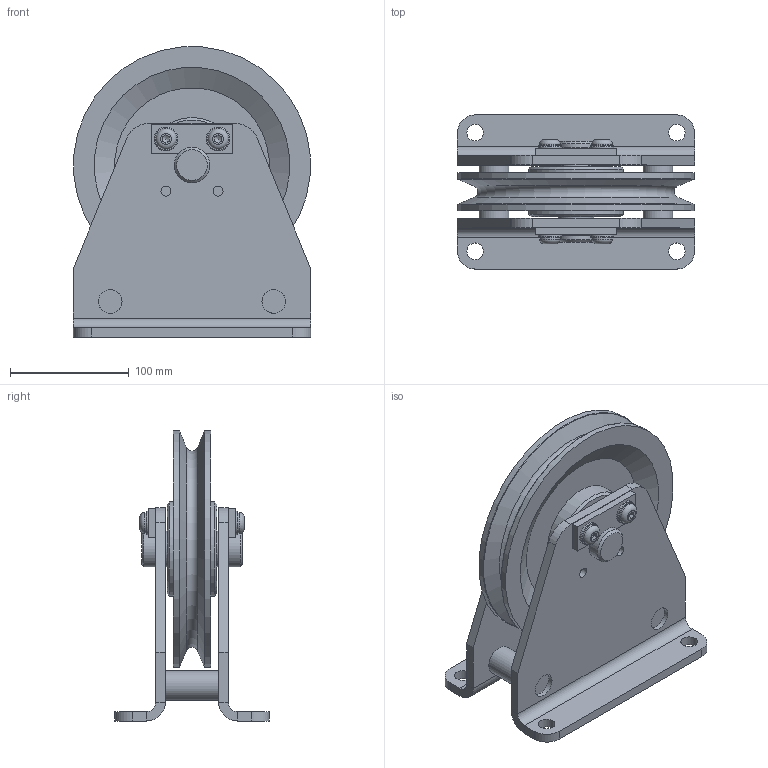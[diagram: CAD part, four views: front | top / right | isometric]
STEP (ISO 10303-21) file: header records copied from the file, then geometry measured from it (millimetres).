
FILE_DESCRIPTION(/* description */ ('Seilrollenbock ø200 Stahl Gleitlager komplett'),/* implementation_level */ '2;1');
FILE_NAME(/* name */ 'Z:\Workspace\03 Seilrollen\1.405 Seilrollenbock Stahl Gleitlager\1.405.06 Seilrollenbock ø200 Stahl Gleitlager\1.405.06 Seilrollenbock ø200 Stahl Gleitlager komplett.stp',/* time_stamp */ '2021-10-05T14:51:17+02:00',/* author */ ('cad-user'),/* organization */ (''),/* preprocessor_version */ 'ST-DEVELOPER v18',/* originating_system */ 'Autodesk Inventor 2020',/* authorisation */ '');
FILE_SCHEMA (('AUTOMOTIVE_DESIGN { 1 0 10303 214 3 1 1 }'));
Length unit declared in the file: millimetre
Products named in the file (11): 1.405.06 Seilrollenbock ø200 Stahl Gleitlager kompl
ett; 1.405.06.01 Seilrollenbock Schweißteil; 1.405.06.01 Blech; 1.405.06.01 Distanzachse; 1.401.06 Seilrolle ø200 Buchse komplett; 1.401.06 Seilrolle ø200 Buchse B=42; 3020DU; 1.405.06.03 Lasche; 1.405.06.02 Achse; DIN 125-1 - B 10,5; ISO 7380 - M10 x 16
Assembly tree (20 placements, depth 3):
  1.405.06 Seilrollenbock ø200 Stahl Gleitlager kompl
ett
    1.405.06.01 Seilrollenbock Schweißteil
      1.405.06.01 Blech  x2
      1.405.06.01 Distanzachse  x2
    1.401.06 Seilrolle ø200 Buchse komplett
      1.401.06 Seilrolle ø200 Buchse B=42
      3020DU  x2
    1.405.06.03 Lasche  x2
    1.405.06.02 Achse
    DIN 125-1 - B 10,5  x4
    ISO 7380 - M10 x 16  x4
Bounding box: 200 x 130 x 244.63 mm (x, y, z)
Volume: 1319896.5 mm3; surface area: 303763.6 mm2
Topology: 18 solids, 18 shells, 215 faces, 527 edges, 360 vertices
Faces by surface type: plane 114, cylinder 66, cone 24, torus 11
Full cylindrical faces by diameter (mm): 8.376 x8, 10 x4, 10.5 x4, 11 x4, 14 x4, 17.5 x4, 20 x12, 25 x2, 30 x3, 34 x1, 80 x2, 200 x2
Entity records: 3683 total; most frequent: DIRECTION 649, CARTESIAN_POINT 579, ORIENTED_EDGE 510, AXIS2_PLACEMENT_3D 267, EDGE_CURVE 255, VERTEX_POINT 176, EDGE_LOOP 137, CIRCLE 133
